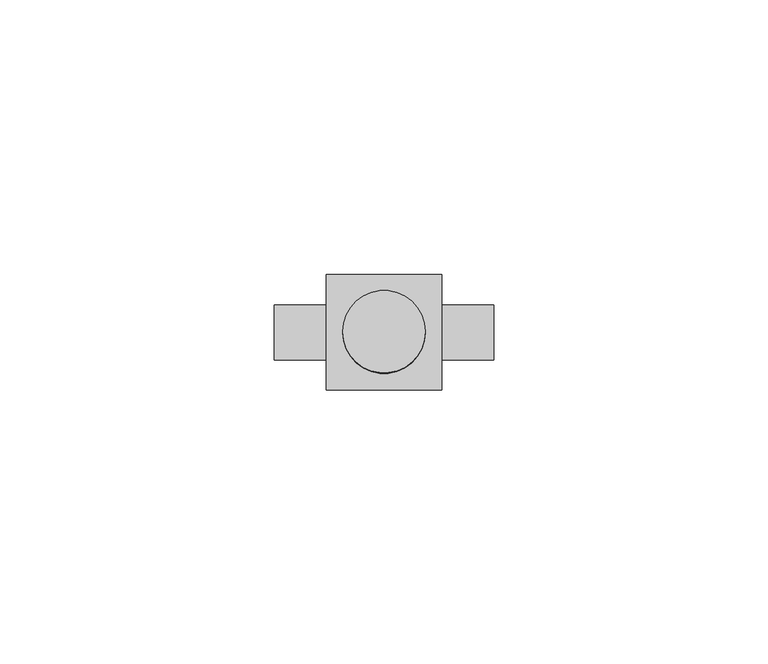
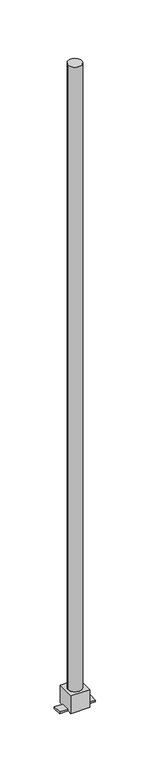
"""IFC4 building model written with IfcOpenShell, lengths in millimetres: pipe fitting geometry, KAN-therm Push kolano mosiężne z rurą Cu15 ze wspornikiem L=750 : KAN-therm Push kolano mosiężne z rurą Cu15 ze wspornikiem L=750."""

from ifc_helpers import new_model, si_unit, frame, origin, origin_with_axes, place, context, project, spatial, circle_curve, source, transform, mapped, element, save
from ifc_brep_helpers import plane_surface, cylinder_surface, advanced_brep


def pipe_fitting_4f28ddf9(model_context):
    return source(origin(), model_context, "Body", "AdvancedBrep", [
        advanced_brep(
        [(10.5, -10.5, 10.5), (10.5, 10.5, 10.5), (-10.5, 10.5, 10.5), (-10.5, -10.5, 10.5), (7.5, 0.0, 10.5), (-7.5, 0.0, 10.5), (10.5, -10.5, -10.5), (-10.5, -10.5, -10.5), (-10.5, -5.0, -10.5), (-20.0, -5.0, -10.5), (-20.0, 5.0, -10.5), (-10.5, 5.0, -10.5), (-10.5, 10.5, -10.5), (10.5, 10.5, -10.5), (10.5, 5.0, -10.5), (20.0, 5.0, -10.5), (20.0, -5.0, -10.5), (10.5, -5.0, -10.5), (-7.5, 0.0, 750.0), (7.5, 0.0, 750.0), (10.5, -5.0, -8.5), (10.5, 5.0, -8.5), (-10.5, 5.0, -8.5), (-10.5, -5.0, -8.5), (20.0, -5.0, -8.5), (20.0, 5.0, -8.5), (-20.0, 5.0, -8.5), (-20.0, -5.0, -8.5)],
        [
            (0, 1),
            (1, 2),
            (2, 3),
            (3, 0),
            (4, 5, circle_curve(frame((0.0, 0.0, 10.5), z_axis=(0.0, 0.0, -1.0), x_axis=(1.0, 0.0, 0.0)), 7.5)),
            (5, 4, circle_curve(frame((0.0, 0.0, 10.5), z_axis=(0.0, 0.0, -1.0), x_axis=(1.0, 0.0, 0.0)), 7.5)),
            (6, 7),
            (7, 8),
            (8, 9),
            (9, 10),
            (10, 11),
            (11, 12),
            (12, 13),
            (13, 14),
            (14, 15),
            (15, 16),
            (16, 17),
            (17, 6),
            (18, 19, circle_curve(frame((0.0, 0.0, 750.0), z_axis=(0.0, 0.0, 1.0), x_axis=(1.0, 0.0, 0.0)), 7.5)),
            (19, 18, circle_curve(frame((0.0, 0.0, 750.0), z_axis=(0.0, 0.0, 1.0), x_axis=(1.0, 0.0, 0.0)), 7.5)),
            (18, 5),
            (4, 19),
            (0, 6),
            (17, 20),
            (20, 21),
            (21, 14),
            (13, 1),
            (12, 2),
            (11, 22),
            (22, 23),
            (23, 8),
            (7, 3),
            (24, 25),
            (25, 21),
            (20, 24),
            (26, 27),
            (27, 23),
            (22, 26),
            (27, 9),
            (16, 24),
            (15, 25),
            (10, 26),
        ],
        [
            plane_surface(frame((10.5, 10.5, 10.5), z_axis=(0.0, 0.0, 1.0), x_axis=(0.0, 1.0, 0.0))),
            plane_surface(frame((10.5, 10.5, -10.5), z_axis=(0.0, 0.0, -1.0), x_axis=(0.0, -1.0, 0.0))),
            plane_surface(frame((7.5, 0.0, 750.0), z_axis=(0.0, 0.0, 1.0), x_axis=(0.0, 1.0, 0.0))),
            cylinder_surface(origin_with_axes(), 7.5),
            plane_surface(frame((10.5, -10.5, 10.5), z_axis=(1.0, 0.0, 0.0), x_axis=(0.0, 0.0, -1.0))),
            plane_surface(frame((10.5, 10.5, 10.5), z_axis=(0.0, 1.0, 0.0), x_axis=(0.0, 0.0, -1.0))),
            plane_surface(frame((-10.5, 10.5, 10.5), z_axis=(-1.0, 0.0, 0.0), x_axis=(0.0, 0.0, -1.0))),
            plane_surface(frame((-10.5, -10.5, 10.5), z_axis=(0.0, -1.0, 0.0), x_axis=(0.0, 0.0, -1.0))),
            plane_surface(frame((2000.0, -5.0, -8.5), z_axis=(0.0, 0.0, 1.0), x_axis=(1.0, 0.0, 0.0))),
            plane_surface(frame((-20.0, -5.0, -8.5), z_axis=(0.0, -1.0, 0.0), x_axis=(0.0, 0.0, -1.0))),
            plane_surface(frame((20.0, -5.0, -8.5), z_axis=(1.0, 0.0, 0.0), x_axis=(0.0, 0.0, -1.0))),
            plane_surface(frame((20.0, 5.0, -8.5), z_axis=(0.0, 1.0, 0.0), x_axis=(0.0, 0.0, -1.0))),
            plane_surface(frame((-20.0, 5.0, -8.5), z_axis=(-1.0, 0.0, 0.0), x_axis=(0.0, 0.0, -1.0))),
        ],
        [
            (0, [[1, 2, 3, 4], [5, 6]]),
            (1, [[7, 8, 9, 10, 11, 12, 13, 14, 15, 16, 17, 18]]),
            (2, [[19, 20]]),
            (3, [[-19, 21, -5, 22]]),
            (3, [[-20, -22, -6, -21]]),
            (4, [[-1, 23, -18, 24, 25, 26, -14, 27]]),
            (5, [[-2, -27, -13, 28]]),
            (6, [[-3, -28, -12, 29, 30, 31, -8, 32]]),
            (7, [[-4, -32, -7, -23]]),
            (8, [[33, 34, -25, 35]]),
            (8, [[36, 37, -30, 38]]),
            (9, [[39, -9, -31, -37]]),
            (9, [[40, -35, -24, -17]]),
            (10, [[-33, -40, -16, 41]]),
            (11, [[-41, -15, -26, -34]]),
            (11, [[42, -38, -29, -11]]),
            (12, [[-36, -42, -10, -39]]),
        ],
    ),
    ])


if __name__ == "__main__":
    model = new_model("IFC4")
    model_context = context("Model", 3, world=origin())
    ifc_project = project(units=[si_unit("LENGTHUNIT", "METRE", prefix="MILLI")], contexts=[model_context])
    site = spatial("IfcSite", under=ifc_project)
    building = spatial("IfcBuilding", under=site)
    placement = place(None, origin())
    pipe_fitting_shape = pipe_fitting_4f28ddf9(model_context)
    element("IfcPipeFitting", 1, ObjectType="KAN-therm Push kolano mosiężne z rurą Cu15 ze wspornikiem L=750 : KAN-therm Push kolano mosiężne z rurą Cu15 ze wspornikiem L=750", at=placement, inside=building, context=model_context, shape_type="MappedRepresentation", body=[
        mapped(pipe_fitting_shape, transform((0.0, 0.0, 0.0), x_axis=(1.0, 0.0, 0.0), y_axis=(0.0, 1.0, 0.0), z_axis=(0.0, 0.0, 1.0))),
    ])
    save(model, "model.ifc")
